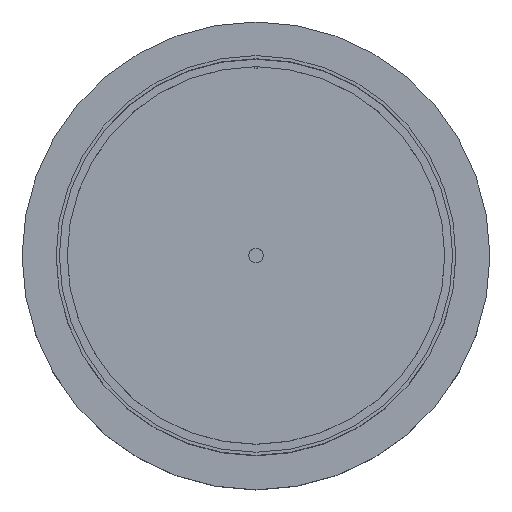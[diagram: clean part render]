
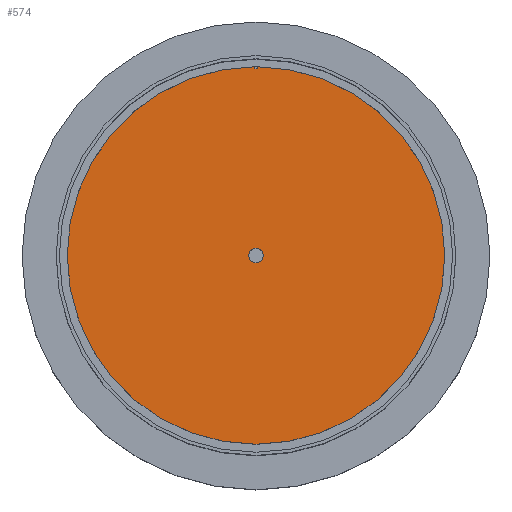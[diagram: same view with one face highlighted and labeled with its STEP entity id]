
A CAD part, top view. The second image highlights one B-rep face of the part: STEP entity #574.
In plain terms, the highlighted planar face has unit normal (0, 0, 1).
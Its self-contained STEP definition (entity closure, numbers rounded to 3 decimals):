
#3 = AXIS2_PLACEMENT_3D ( 'NONE', #367, #234, #648 ) ;
#18 = DIRECTION ( 'NONE',  ( 1., 0., 0. ) ) ;
#25 = CARTESIAN_POINT ( 'NONE',  ( 0.5, 88.749, 120. ) ) ;
#36 = AXIS2_PLACEMENT_3D ( 'NONE', #407, #207, #473 ) ;
#42 = CARTESIAN_POINT ( 'NONE',  ( -0.5, 88.749, 120. ) ) ;
#43 = VERTEX_POINT ( 'NONE', #188 ) ;
#59 = VERTEX_POINT ( 'NONE', #116 ) ;
#66 = FACE_BOUND ( 'NONE', #597, .T. ) ;
#82 = DIRECTION ( 'NONE',  ( 1., 0., 0. ) ) ;
#87 = CARTESIAN_POINT ( 'NONE',  ( 0., 0., 120. ) ) ;
#108 = CARTESIAN_POINT ( 'NONE',  ( 3.4, 0., 120. ) ) ;
#116 = CARTESIAN_POINT ( 'NONE',  ( -88.75, 0., 120. ) ) ;
#117 = CARTESIAN_POINT ( 'NONE',  ( 0.5, 87.75, 120. ) ) ;
#126 = CARTESIAN_POINT ( 'NONE',  ( -3.4, 0., 120. ) ) ;
#160 = ORIENTED_EDGE ( 'NONE', *, *, #636, .F. ) ;
#175 = EDGE_LOOP ( 'NONE', ( #291, #160, #420, #524, #445, #370 ) ) ;
#179 = EDGE_CURVE ( 'NONE', #59, #650, #225, .T. ) ;
#188 = CARTESIAN_POINT ( 'NONE',  ( -0.5, 87.75, 120. ) ) ;
#206 = DIRECTION ( 'NONE',  ( 1., 0., 0. ) ) ;
#207 = DIRECTION ( 'NONE',  ( 0., 0., 1. ) ) ;
#224 = VERTEX_POINT ( 'NONE', #818 ) ;
#225 = CIRCLE ( 'NONE', #808, 88.75 ) ;
#234 = DIRECTION ( 'NONE',  ( 0., 0., 1. ) ) ;
#288 = EDGE_CURVE ( 'NONE', #381, #436, #395, .T. ) ;
#291 = ORIENTED_EDGE ( 'NONE', *, *, #806, .F. ) ;
#326 = AXIS2_PLACEMENT_3D ( 'NONE', #857, #615, #206 ) ;
#348 = DIRECTION ( 'NONE',  ( 1., 0., 0. ) ) ;
#361 = DIRECTION ( 'NONE',  ( 1., 0., 0. ) ) ;
#365 = DIRECTION ( 'NONE',  ( 0., 0., 1. ) ) ;
#367 = CARTESIAN_POINT ( 'NONE',  ( 0., 0., 120. ) ) ;
#370 = ORIENTED_EDGE ( 'NONE', *, *, #748, .T. ) ;
#381 = VERTEX_POINT ( 'NONE', #126 ) ;
#386 = LINE ( 'NONE', #42, #455 ) ;
#391 = EDGE_CURVE ( 'NONE', #224, #43, #386, .T. ) ;
#395 = CIRCLE ( 'NONE', #3, 3.4 ) ;
#407 = CARTESIAN_POINT ( 'NONE',  ( 0., 0., 120. ) ) ;
#409 = AXIS2_PLACEMENT_3D ( 'NONE', #87, #365, #18 ) ;
#420 = ORIENTED_EDGE ( 'NONE', *, *, #391, .F. ) ;
#422 = PLANE ( 'NONE',  #36 ) ;
#436 = VERTEX_POINT ( 'NONE', #108 ) ;
#438 = CARTESIAN_POINT ( 'NONE',  ( -0.5, 87.75, 120. ) ) ;
#445 = ORIENTED_EDGE ( 'NONE', *, *, #179, .T. ) ;
#455 = VECTOR ( 'NONE', #901, 1000. ) ;
#462 = CARTESIAN_POINT ( 'NONE',  ( 0.5, 87.75, 120. ) ) ;
#473 = DIRECTION ( 'NONE',  ( 1., 0., 0. ) ) ;
#485 = DIRECTION ( 'NONE',  ( 0., 0., 1. ) ) ;
#524 = ORIENTED_EDGE ( 'NONE', *, *, #726, .T. ) ;
#574 = ADVANCED_FACE ( 'NONE', ( #771, #66 ), #422, .T. ) ;
#576 = AXIS2_PLACEMENT_3D ( 'NONE', #583, #797, #82 ) ;
#583 = CARTESIAN_POINT ( 'NONE',  ( 0., 0., 120. ) ) ;
#597 = EDGE_LOOP ( 'NONE', ( #723, #740 ) ) ;
#615 = DIRECTION ( 'NONE',  ( 0., 0., 1. ) ) ;
#633 = CIRCLE ( 'NONE', #326, 3.4 ) ;
#636 = EDGE_CURVE ( 'NONE', #43, #789, #814, .T. ) ;
#648 = DIRECTION ( 'NONE',  ( 1., 0., 0. ) ) ;
#650 = VERTEX_POINT ( 'NONE', #733 ) ;
#673 = LINE ( 'NONE', #117, #731 ) ;
#702 = VERTEX_POINT ( 'NONE', #25 ) ;
#723 = ORIENTED_EDGE ( 'NONE', *, *, #888, .F. ) ;
#726 = EDGE_CURVE ( 'NONE', #224, #59, #746, .T. ) ;
#731 = VECTOR ( 'NONE', #900, 1000. ) ;
#733 = CARTESIAN_POINT ( 'NONE',  ( 88.75, 0., 120. ) ) ;
#740 = ORIENTED_EDGE ( 'NONE', *, *, #288, .F. ) ;
#746 = CIRCLE ( 'NONE', #576, 88.75 ) ;
#748 = EDGE_CURVE ( 'NONE', #650, #702, #825, .T. ) ;
#771 = FACE_OUTER_BOUND ( 'NONE', #175, .T. ) ;
#789 = VERTEX_POINT ( 'NONE', #462 ) ;
#793 = CARTESIAN_POINT ( 'NONE',  ( 0., 0., 120. ) ) ;
#797 = DIRECTION ( 'NONE',  ( 0., 0., 1. ) ) ;
#806 = EDGE_CURVE ( 'NONE', #789, #702, #673, .T. ) ;
#808 = AXIS2_PLACEMENT_3D ( 'NONE', #793, #485, #348 ) ;
#814 = LINE ( 'NONE', #438, #885 ) ;
#818 = CARTESIAN_POINT ( 'NONE',  ( -0.5, 88.749, 120. ) ) ;
#825 = CIRCLE ( 'NONE', #409, 88.75 ) ;
#857 = CARTESIAN_POINT ( 'NONE',  ( 0., 0., 120. ) ) ;
#885 = VECTOR ( 'NONE', #361, 1000. ) ;
#888 = EDGE_CURVE ( 'NONE', #436, #381, #633, .T. ) ;
#900 = DIRECTION ( 'NONE',  ( 0., 1., 0. ) ) ;
#901 = DIRECTION ( 'NONE',  ( 0., -1., 0. ) ) ;
